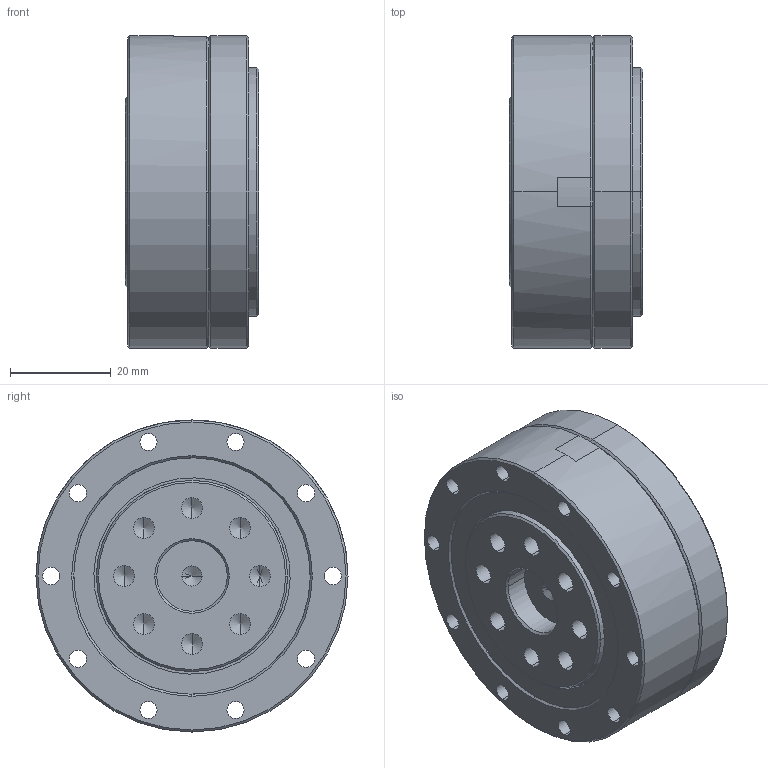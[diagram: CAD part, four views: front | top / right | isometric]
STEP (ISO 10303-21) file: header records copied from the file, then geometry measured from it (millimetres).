
FILE_DESCRIPTION(/* description */ (''),/* implementation_level */ '2;1');
FILE_NAME(/* name */ 'WCSD-17-I.stp',/* time_stamp */ '2021-05-19T15:54:46+08:00',/* author */ (''),/* organization */ (''),/* preprocessor_version */ 'ST-DEVELOPER v16',/* originating_system */ 'SIEMENS PLM Software NX 11.0',/* authorisation */ '');
FILE_SCHEMA (('AUTOMOTIVE_DESIGN { 1 0 10303 214 3 1 1 1 }'));
Length unit declared in the file: millimetre
Products named in the file (13): 17-交叉轴承堵头; 交叉轴承-油封-CSF-17; 17-交叉轴承外圈; 17-交叉轴承内圈; 凸轮-SF-17; CSD-17-柔轮; 17柔性轴承; hexagon socket head cap screws gb_GB_FASTENER_SCREWS_HSHCS M4X8-N; CSD-17-钢轮; M2-12; CSD-17交叉轴承; 17-波发生器; WCSD-17-I_stp
Assembly tree (23 placements, depth 3):
  WCSD-17-I_stp
    M2-12  x5
    CSD-17-钢轮
    hexagon socket head cap screws gb_GB_FASTENER_SCREWS_HSHCS M4X8-N  x8
    17-波发生器
      凸轮-SF-17
    CSD-17交叉轴承
      17-交叉轴承内圈
      17-交叉轴承外圈
      交叉轴承-油封-CSF-17
      17-交叉轴承堵头
    17柔性轴承
    CSD-17-柔轮
Bounding box: 26.5 x 62 x 62 mm (x, y, z)
Volume: 56642.1 mm3; surface area: 43346.3 mm2
Topology: 21 solids, 21 shells, 684 faces, 1591 edges, 961 vertices
Faces by surface type: cylinder 245, plane 221, cone 165, torus 49, bspline 4
Full cylindrical faces by diameter (mm): 2 x5, 3.62 x5
Entity records: 16380 total; most frequent: CARTESIAN_POINT 4766, DIRECTION 2563, ORIENTED_EDGE 2066, AXIS2_PLACEMENT_3D 1079, EDGE_CURVE 1033, VERTEX_POINT 658, CIRCLE 606, EDGE_LOOP 599
